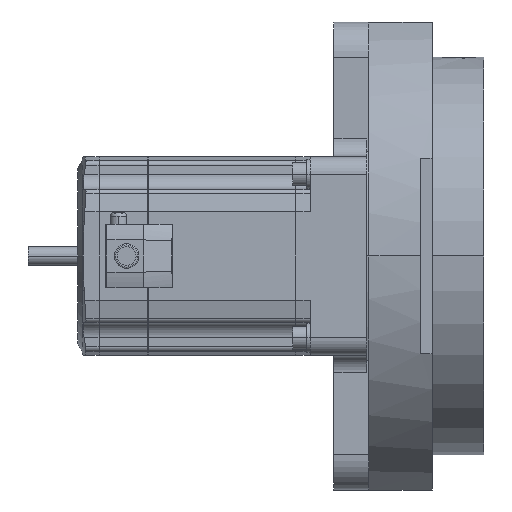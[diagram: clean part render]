
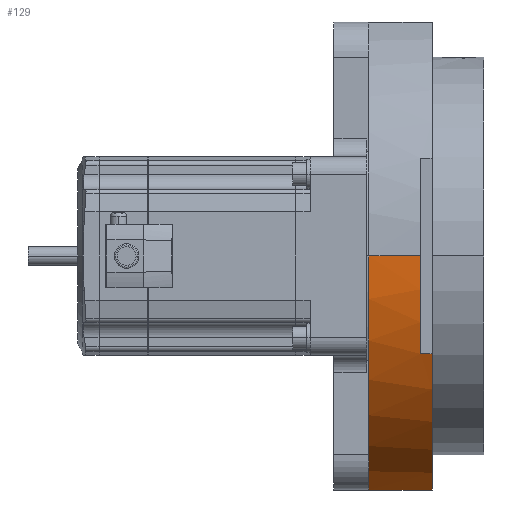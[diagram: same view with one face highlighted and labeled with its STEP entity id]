
A CAD part, front view. The second image highlights one B-rep face of the part: STEP entity #129.
In plain terms, the highlighted cylindrical face has radius 107 mm (diameter 214 mm), a partial arc.
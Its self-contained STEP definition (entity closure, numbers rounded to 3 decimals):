
#129 = ADVANCED_FACE( '', ( #758 ), #759, .T. );
#758 = FACE_OUTER_BOUND( '', #2056, .T. );
#759 = CYLINDRICAL_SURFACE( '', #2057, 107. );
#2056 = EDGE_LOOP( '', ( #3384, #3385, #3386, #3387, #3388, #3389 ) );
#2057 = AXIS2_PLACEMENT_3D( '', #3390, #3391, #3392 );
#3384 = ORIENTED_EDGE( '', *, *, #8606, .F. );
#3385 = ORIENTED_EDGE( '', *, *, #8607, .F. );
#3386 = ORIENTED_EDGE( '', *, *, #8608, .T. );
#3387 = ORIENTED_EDGE( '', *, *, #8609, .T. );
#3388 = ORIENTED_EDGE( '', *, *, #8610, .T. );
#3389 = ORIENTED_EDGE( '', *, *, #8611, .T. );
#3390 = CARTESIAN_POINT( '', ( -35.5, 0., 0. ) );
#3391 = DIRECTION( '', ( 1., 0., 0. ) );
#3392 = DIRECTION( '', ( 0., 1., 0. ) );
#8606 = EDGE_CURVE( '', #10317, #10318, #10319, .T. );
#8607 = EDGE_CURVE( '', #10320, #10317, #10321, .T. );
#8608 = EDGE_CURVE( '', #10320, #10322, #10323, .T. );
#8609 = EDGE_CURVE( '', #10322, #10324, #10325, .T. );
#8610 = EDGE_CURVE( '', #10324, #10326, #10327, .T. );
#8611 = EDGE_CURVE( '', #10326, #10318, #10328, .T. );
#10317 = VERTEX_POINT( '', #13127 );
#10318 = VERTEX_POINT( '', #13128 );
#10319 = LINE( '', #13129, #13130 );
#10320 = VERTEX_POINT( '', #13131 );
#10321 = CIRCLE( '', #13132, 107. );
#10322 = VERTEX_POINT( '', #13133 );
#10323 = LINE( '', #13134, #13135 );
#10324 = VERTEX_POINT( '', #13136 );
#10325 = CIRCLE( '', #13137, 107. );
#10326 = VERTEX_POINT( '', #13138 );
#10327 = LINE( '', #13139, #13140 );
#10328 = CIRCLE( '', #13141, 107. );
#13127 = CARTESIAN_POINT( '', ( -49., -107., 0. ) );
#13128 = CARTESIAN_POINT( '', ( -27., -107., 0. ) );
#13129 = CARTESIAN_POINT( '', ( -35.5, -107., 0. ) );
#13130 = VECTOR( '', #17517, 1. );
#13131 = CARTESIAN_POINT( '', ( -49., -38.066, -100. ) );
#13132 = AXIS2_PLACEMENT_3D( '', #17518, #17519, #17520 );
#13133 = CARTESIAN_POINT( '', ( -22., -38.066, -100. ) );
#13134 = CARTESIAN_POINT( '', ( -35.5, -38.066, -100. ) );
#13135 = VECTOR( '', #17521, 1. );
#13136 = CARTESIAN_POINT( '', ( -22., -98.5, -41.794 ) );
#13137 = AXIS2_PLACEMENT_3D( '', #17522, #17523, #17524 );
#13138 = CARTESIAN_POINT( '', ( -27., -98.5, -41.794 ) );
#13139 = CARTESIAN_POINT( '', ( -24.5, -98.5, -41.794 ) );
#13140 = VECTOR( '', #17525, 1. );
#13141 = AXIS2_PLACEMENT_3D( '', #17526, #17527, #17528 );
#17517 = DIRECTION( '', ( 1., 0., 0. ) );
#17518 = CARTESIAN_POINT( '', ( -49., 0., 0. ) );
#17519 = DIRECTION( '', ( -1., 0., 0. ) );
#17520 = DIRECTION( '', ( 0., 1., 0. ) );
#17521 = DIRECTION( '', ( 1., 0., 0. ) );
#17522 = CARTESIAN_POINT( '', ( -22., 0., 0. ) );
#17523 = DIRECTION( '', ( -1., 0., 0. ) );
#17524 = DIRECTION( '', ( 0., 1., 0. ) );
#17525 = DIRECTION( '', ( -1., 0., 0. ) );
#17526 = CARTESIAN_POINT( '', ( -27., 0., 0. ) );
#17527 = DIRECTION( '', ( -1., 0., 0. ) );
#17528 = DIRECTION( '', ( 0., 1., 0. ) );
